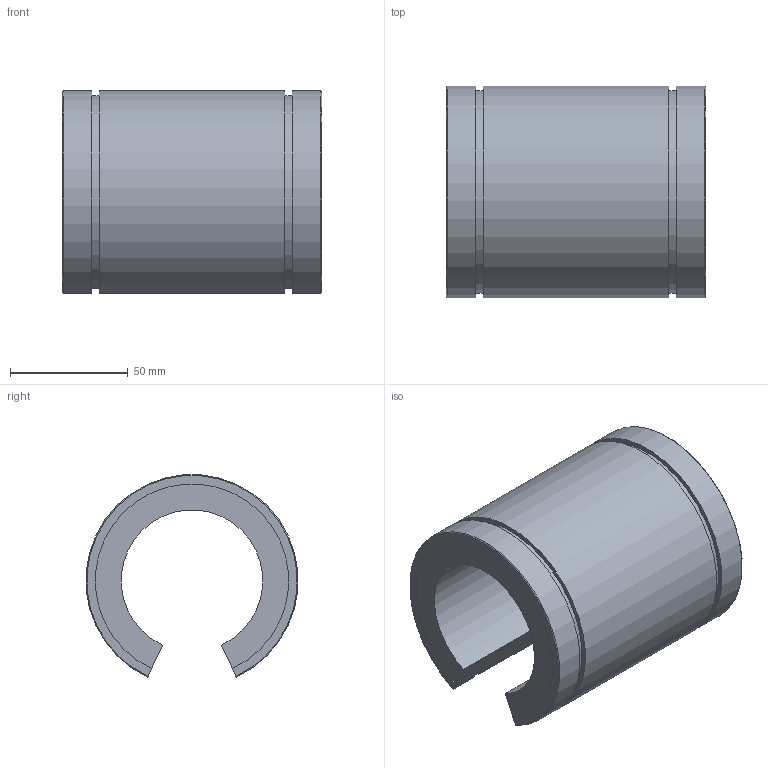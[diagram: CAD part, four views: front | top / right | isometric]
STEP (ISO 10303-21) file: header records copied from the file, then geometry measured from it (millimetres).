
FILE_DESCRIPTION((''),'2;1');
FILE_NAME('D:\製品 (図面)\カタログ用3D\リニアベアリング関連\STEP形式\L-OP\L60-OP.stp','2010-06-04T09:37:48',('Tsuchiya'),(''),'Autodesk Inventor 10','Autodesk Inventor 10','');
FILE_SCHEMA(('AUTOMOTIVE_DESIGN { 1 0 10303 214 1 1 1 1 }'));
Length unit declared in the file: millimetre
Products named in the file (1): L60-OP
Bounding box: 110 x 89.68 x 85.69 mm (x, y, z)
Volume: 331966.7 mm3; surface area: 55834.9 mm2
Topology: 1 solids, 1 shells, 20 faces, 54 edges, 36 vertices
Faces by surface type: plane 10, cylinder 8, torus 2
Entity records: 687 total; most frequent: CARTESIAN_POINT 147, DIRECTION 110, ORIENTED_EDGE 108, EDGE_CURVE 54, AXIS2_PLACEMENT_3D 39, VERTEX_POINT 36, VECTOR 32, LINE 32
